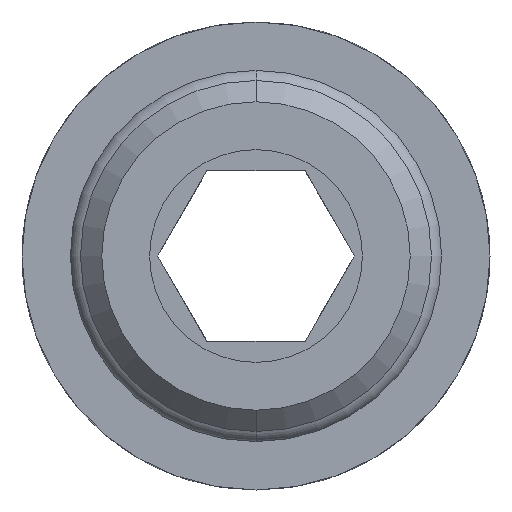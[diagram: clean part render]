
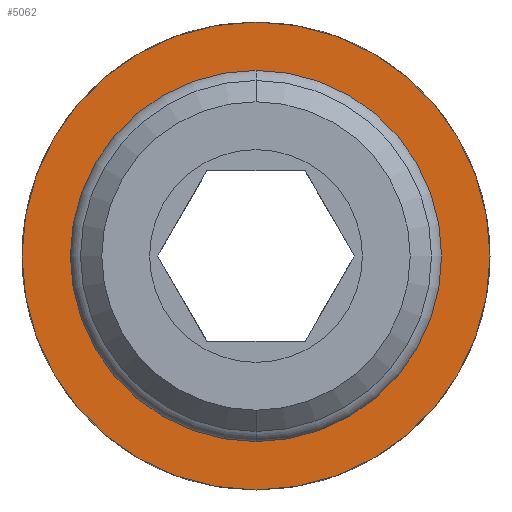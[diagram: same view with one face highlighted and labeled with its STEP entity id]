
A CAD part, front view. The second image highlights one B-rep face of the part: STEP entity #5062.
In plain terms, the highlighted planar face has unit normal (0, -1, 0).
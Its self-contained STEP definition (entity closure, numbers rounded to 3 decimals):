
#127 = AXIS2_PLACEMENT_3D ( 'NONE', #748, #5877, #4153 ) ;
#175 = DIRECTION ( 'NONE',  ( 0., 0., -1. ) ) ;
#421 = CARTESIAN_POINT ( 'NONE',  ( 0., 8., 8.724 ) ) ;
#707 = VERTEX_POINT ( 'NONE', #2509 ) ;
#748 = CARTESIAN_POINT ( 'NONE',  ( 0., 8., 0. ) ) ;
#830 = CIRCLE ( 'NONE', #5708, 11. ) ;
#1040 = EDGE_CURVE ( 'NONE', #2344, #4167, #830, .T. ) ;
#1298 = CIRCLE ( 'NONE', #7644, 8.724 ) ;
#1330 = DIRECTION ( 'NONE',  ( 0., 0., 1. ) ) ;
#1406 = DIRECTION ( 'NONE',  ( 0., 0., 1. ) ) ;
#2024 = CIRCLE ( 'NONE', #2577, 8.724 ) ;
#2280 = ORIENTED_EDGE ( 'NONE', *, *, #1040, .T. ) ;
#2295 = EDGE_LOOP ( 'NONE', ( #5083, #7150 ) ) ;
#2344 = VERTEX_POINT ( 'NONE', #5139 ) ;
#2509 = CARTESIAN_POINT ( 'NONE',  ( 0., 8., -8.724 ) ) ;
#2577 = AXIS2_PLACEMENT_3D ( 'NONE', #6674, #2734, #4610 ) ;
#2681 = DIRECTION ( 'NONE',  ( 0., -1., 0. ) ) ;
#2686 = AXIS2_PLACEMENT_3D ( 'NONE', #5892, #4637, #1406 ) ;
#2734 = DIRECTION ( 'NONE',  ( 0., -1., 0. ) ) ;
#2802 = FACE_BOUND ( 'NONE', #2295, .T. ) ;
#2897 = CARTESIAN_POINT ( 'NONE',  ( 0., 8., 11. ) ) ;
#3194 = ORIENTED_EDGE ( 'NONE', *, *, #7116, .T. ) ;
#3256 = EDGE_CURVE ( 'NONE', #707, #4227, #1298, .T. ) ;
#3257 = CARTESIAN_POINT ( 'NONE',  ( 0., 8., 0. ) ) ;
#3608 = CARTESIAN_POINT ( 'NONE',  ( 0., 8., 0. ) ) ;
#4153 = DIRECTION ( 'NONE',  ( 0., 0., -1. ) ) ;
#4167 = VERTEX_POINT ( 'NONE', #2897 ) ;
#4227 = VERTEX_POINT ( 'NONE', #421 ) ;
#4610 = DIRECTION ( 'NONE',  ( 0., 0., 1. ) ) ;
#4637 = DIRECTION ( 'NONE',  ( 0., 1., 0. ) ) ;
#4722 = FACE_OUTER_BOUND ( 'NONE', #4951, .T. ) ;
#4951 = EDGE_LOOP ( 'NONE', ( #2280, #3194 ) ) ;
#5062 = ADVANCED_FACE ( 'NONE', ( #4722, #2802 ), #6656, .F. ) ;
#5083 = ORIENTED_EDGE ( 'NONE', *, *, #3256, .F. ) ;
#5139 = CARTESIAN_POINT ( 'NONE',  ( 0., 8., -11. ) ) ;
#5708 = AXIS2_PLACEMENT_3D ( 'NONE', #3608, #7318, #175 ) ;
#5877 = DIRECTION ( 'NONE',  ( 0., -1., 0. ) ) ;
#5892 = CARTESIAN_POINT ( 'NONE',  ( -10.445, 8., 0. ) ) ;
#6656 = PLANE ( 'NONE',  #2686 ) ;
#6674 = CARTESIAN_POINT ( 'NONE',  ( 0., 8., 0. ) ) ;
#7116 = EDGE_CURVE ( 'NONE', #4167, #2344, #8386, .T. ) ;
#7150 = ORIENTED_EDGE ( 'NONE', *, *, #7518, .F. ) ;
#7318 = DIRECTION ( 'NONE',  ( 0., -1., 0. ) ) ;
#7518 = EDGE_CURVE ( 'NONE', #4227, #707, #2024, .T. ) ;
#7644 = AXIS2_PLACEMENT_3D ( 'NONE', #3257, #2681, #1330 ) ;
#8386 = CIRCLE ( 'NONE', #127, 11. ) ;
